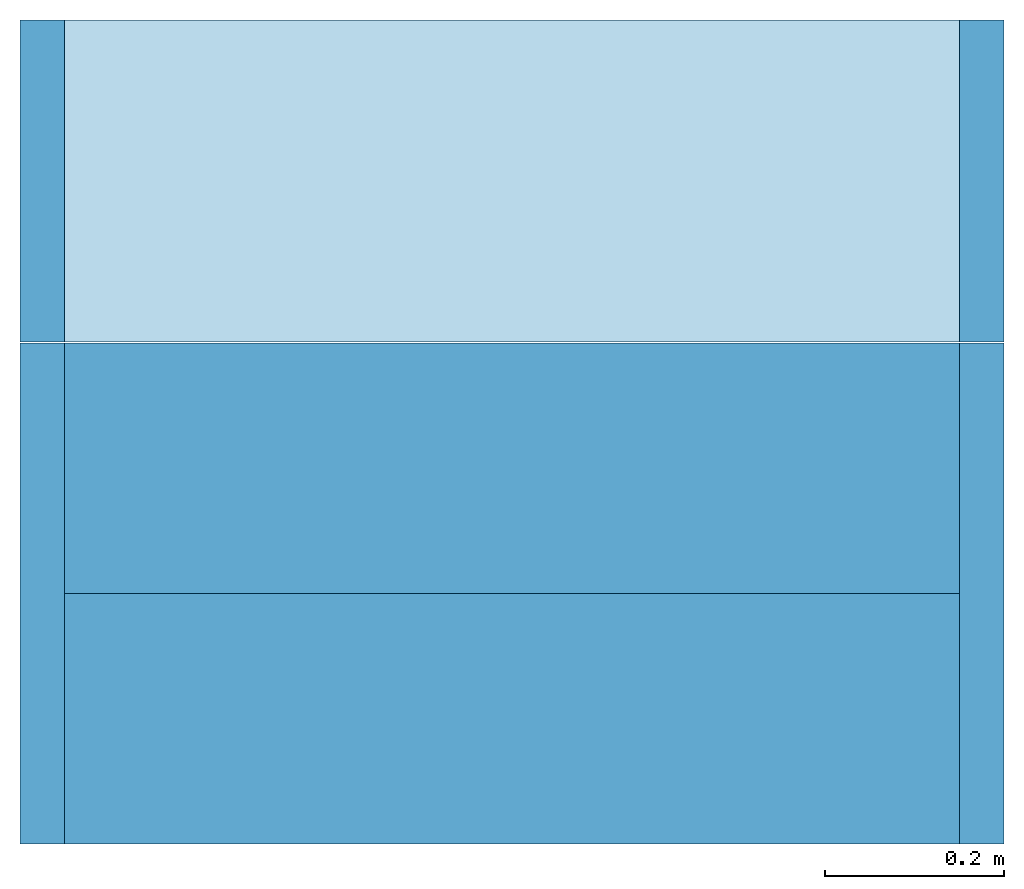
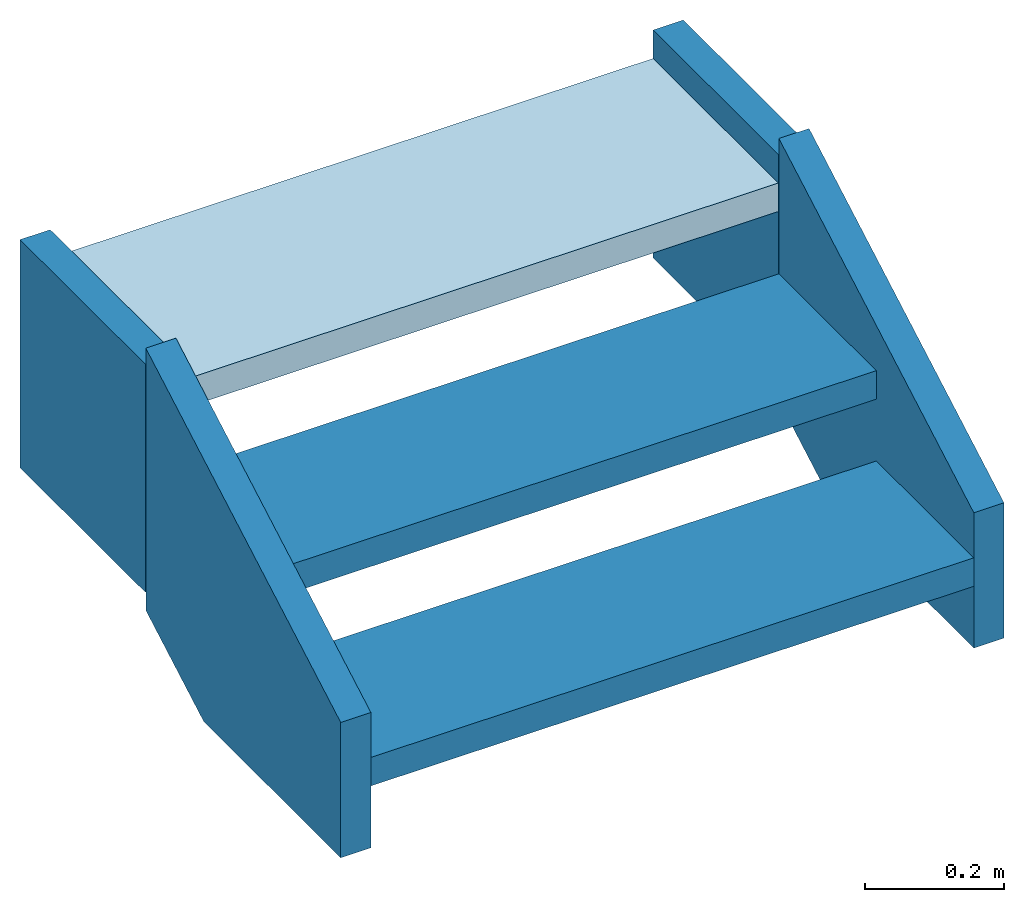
# One storey: 4 members, 1 slab, 1 stair flight, 1 element without a shape of its own.
"""IFC2X3 building model written with IfcOpenShell, lengths in centimetres."""

from ifc_helpers import new_model, entity, si_unit, converted_unit, derived_unit, direction, frame, frame_2d, origin, origin_2d_with_axis, place, context, subcontext, project, spatial, polyline, rectangle, outline, extrude, type_object, element, aggregate, save


model = new_model("IFC2X3")

# Units and contexts
model_context = context("Model", 3, precision=0.001, world=origin(), true_north=direction((6.12303176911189e-17, 1.0)))
body_context = subcontext(model_context, "Body", "Model", "MODEL_VIEW")
ifc_project = project(units=[si_unit("LENGTHUNIT", "METRE", prefix="CENTI"), si_unit("AREAUNIT", "SQUARE_METRE"), si_unit("VOLUMEUNIT", "CUBIC_METRE"), converted_unit("PLANEANGLEUNIT", "DEGREE", entity("IfcRatioMeasure", 0.0174532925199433), si_unit("PLANEANGLEUNIT", "RADIAN"), dimensions=[0, 0, 0, 0, 0, 0, 0]), si_unit("MASSUNIT", "GRAM", prefix="KILO"), derived_unit("MASSDENSITYUNIT", [(si_unit("MASSUNIT", "GRAM", prefix="KILO"), 1), (si_unit("LENGTHUNIT", "METRE"), -3)]), si_unit("TIMEUNIT", "SECOND"), si_unit("FREQUENCYUNIT", "HERTZ"), si_unit("THERMODYNAMICTEMPERATUREUNIT", "DEGREE_CELSIUS"), derived_unit("THERMALTRANSMITTANCEUNIT", [(si_unit("MASSUNIT", "GRAM", prefix="KILO"), 1), (si_unit("THERMODYNAMICTEMPERATUREUNIT", "KELVIN"), -1), (si_unit("TIMEUNIT", "SECOND"), -3)]), derived_unit("VOLUMETRICFLOWRATEUNIT", [(si_unit("LENGTHUNIT", "METRE"), 3), (si_unit("TIMEUNIT", "SECOND"), -1)]), si_unit("ELECTRICCURRENTUNIT", "AMPERE"), si_unit("ELECTRICVOLTAGEUNIT", "VOLT"), si_unit("POWERUNIT", "WATT"), si_unit("FORCEUNIT", "NEWTON", prefix="KILO"), si_unit("ILLUMINANCEUNIT", "LUX"), si_unit("LUMINOUSFLUXUNIT", "LUMEN"), si_unit("LUMINOUSINTENSITYUNIT", "CANDELA"), derived_unit("USERDEFINED", [(si_unit("MASSUNIT", "GRAM", prefix="KILO"), -1), (si_unit("LENGTHUNIT", "METRE"), -2), (si_unit("TIMEUNIT", "SECOND"), 3), (si_unit("LUMINOUSFLUXUNIT", "LUMEN"), 1)]), derived_unit("LINEARVELOCITYUNIT", [(si_unit("LENGTHUNIT", "METRE"), 1), (si_unit("TIMEUNIT", "SECOND"), -1)]), si_unit("PRESSUREUNIT", "PASCAL"), derived_unit("USERDEFINED", [(si_unit("LENGTHUNIT", "METRE"), -2), (si_unit("MASSUNIT", "GRAM", prefix="KILO"), 1), (si_unit("TIMEUNIT", "SECOND"), -2)])], contexts=[model_context])

# Site, building, storey
site_placement = place(None, frame((-2781.94577612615, 7442.24238424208, 0.0)))
site = spatial("IfcSite", under=ifc_project, at=site_placement, Name="Default", CompositionType="ELEMENT")
building_placement = place(site_placement, origin())
building = spatial("IfcBuilding", under=site, at=building_placement, CompositionType="ELEMENT")
storey_placement = place(building_placement, frame((0.0, 0.0, 618.220000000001)))
storey = spatial("IfcBuildingStorey", under=building, at=storey_placement, Name="TR - TECHNIQUE R+1", CompositionType="ELEMENT", Elevation=618.220000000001)

# Stair, members, slab, stair flight
stair_placement = place(storey_placement, origin())
stair = element("IfcStair", 1, at=stair_placement, inside=storey, Name="Escalier assemblé:Escalier", ObjectType="Escalier assemblé:Escalier assemblé", ShapeType="NOTDEFINED")
member_type = type_object("IfcMemberType", Name="Limon à la française:Limon à la française - 50 mm", PredefinedType="STRINGER")
member_1_placement = place(stair_placement, origin())
member_1 = element("IfcMember", 2, at=member_1_placement, type_object=member_type, Name="Escalier assemblé:Escalier:1955995 Stringer 1", ObjectType="Limon à la française:Limon à la française - 50 mm", context=body_context, shape_type="SweptSolid", body=[
    extrude(outline(polyline([(-30.2618927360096, -17.7112292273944), (9.0475709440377, -17.7112292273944), (25.7381072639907, -8.27125824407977), (25.7381072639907, 37.6833289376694), (-30.2618927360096, 6.01038776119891), (-30.2618927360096, -17.7112292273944)])), frame((-11213.882807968, -4251.37033685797, 6.98122922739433), z_axis=(1.0, 0.0, 0.0), x_axis=(0.0, 1.0, 0.0)), (0.0, 0.0, 1.0), 5.00000000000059),
])
member_2_placement = place(stair_placement, origin())
member_2 = element("IfcMember", 3, at=member_2_placement, type_object=member_type, Name="Escalier assemblé:Escalier:1955995 Stringer 2", ObjectType="Limon à la française:Limon à la française - 50 mm", context=body_context, shape_type="SweptSolid", body=[
    extrude(outline(polyline([(-30.2618927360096, -17.7112292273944), (9.0475709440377, -17.7112292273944), (25.7381072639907, -8.27125824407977), (25.7381072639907, 37.6833289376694), (-30.2618927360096, 6.01038776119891), (-30.2618927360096, -17.7112292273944)])), frame((-11108.882807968, -4251.37033685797, 6.98122922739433), z_axis=(1.0, 0.0, 0.0), x_axis=(0.0, 1.0, 0.0)), (0.0, 0.0, 1.0), 5.00000000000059),
])
member_3_placement = place(stair_placement, origin())
member_3 = element("IfcMember", 4, at=member_3_placement, type_object=member_type, Name="Escalier assemblé:Escalier:1955995 Stringer 3", ObjectType="Limon à la française:Limon à la française - 50 mm", context=body_context, shape_type="SweptSolid", body=[
    extrude(rectangle(XDim=35.9999999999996, YDim=5.0000000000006, at=frame_2d((-4.33431068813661e-13, -8.66418048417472e-13), x_axis=(1.0, 0.0))), frame((-11211.382807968, -4207.50027342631, 1.77941176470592), z_axis=(0.0, 0.0, 1.0), x_axis=(0.0, -1.0, 0.0)), (0.0, 0.0, 1.0), 40.0),
])
member_4_placement = place(stair_placement, origin())
member_4 = element("IfcMember", 5, at=member_4_placement, type_object=member_type, Name="Escalier assemblé:Escalier:1955995 Stringer 4", ObjectType="Limon à la française:Limon à la française - 50 mm", context=body_context, shape_type="SweptSolid", body=[
    extrude(rectangle(XDim=35.9999999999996, YDim=5.0000000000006, at=frame_2d((4.33431068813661e-13, -8.66418048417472e-13), x_axis=(1.0, 0.0))), frame((-11106.382807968, -4207.50027342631, 1.77941176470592), z_axis=(0.0, 0.0, 1.0), x_axis=(0.0, 1.0, 0.0)), (0.0, 0.0, 1.0), 40.0),
])
slab_placement = place(stair_placement, origin())
slab = element("IfcSlab", 6, at=slab_placement, Name="Escalier assemblé:Escalier:1955995 Landing 1", ObjectType="Palier non-monobloc:Palier non-monobloc", PredefinedType="LANDING", context=body_context, shape_type="SweptSolid", body=[
    extrude(rectangle(XDim=100.000000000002, YDim=35.9999999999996, at=frame_2d((0.0, -4.33431068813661e-13), x_axis=(1.0, 0.0))), frame((-11158.882807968, -4207.50027342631, 31.779411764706), z_axis=(0.0, 0.0, 1.0), x_axis=(-1.0, 0.0, 0.0)), (0.0, 0.0, 1.0), 4.99999999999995),
])
stair_flight_placement = place(stair_placement, origin())
stair_flight = element("IfcStairFlight", 7, at=stair_flight_placement, Name="Escalier assemblé:Escalier:1955995 Run 1", ObjectType="Volée non-monobloc:Marche 50 mm Contremarche 13 mm", NumberOfRiser=3, NumberOfTreads=2, RiserHeight=0.519569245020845, TreadLength=0.918635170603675, context=body_context, shape_type="SweptSolid", body=[
    extrude(rectangle(XDim=28.0000000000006, YDim=100.000000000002, at=origin_2d_with_axis()), frame((-11158.882807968, -4267.63222959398, 0.1064705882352), z_axis=(0.0, 0.0, 1.0), x_axis=(0.0, -1.0, 0.0)), (0.0, 0.0, 1.0), 4.99999999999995),
    extrude(rectangle(XDim=28.0000000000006, YDim=100.000000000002, at=origin_2d_with_axis()), frame((-11158.882807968, -4239.63222959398, 15.9429411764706), z_axis=(0.0, 0.0, 1.0), x_axis=(0.0, -1.0, 0.0)), (0.0, 0.0, 1.0), 4.99999999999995),
])
aggregate(stair, [stair_flight, slab, member_1, member_2, member_3, member_4])

save(model, "model.ifc")
